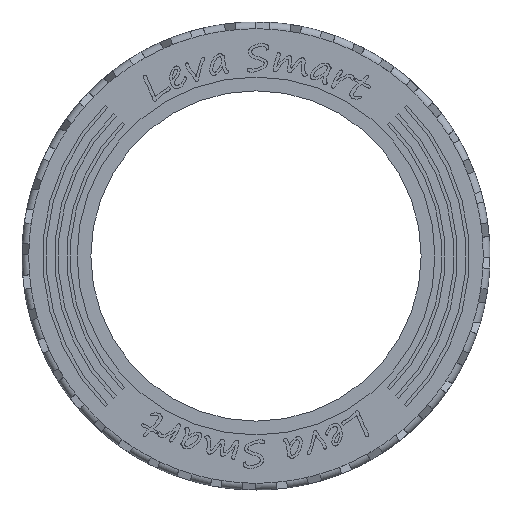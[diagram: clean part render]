
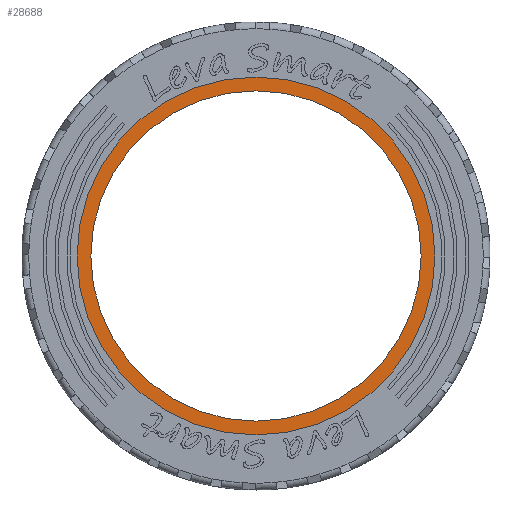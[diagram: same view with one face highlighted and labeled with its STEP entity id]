
A CAD part, left-side view. The second image highlights one B-rep face of the part: STEP entity #28688.
In plain terms, the highlighted planar face has unit normal (-1, 0, 0).
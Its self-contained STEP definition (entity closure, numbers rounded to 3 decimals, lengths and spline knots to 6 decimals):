
#8587=ORIENTED_EDGE('',*,*,#17689,.F.);
#8588=ORIENTED_EDGE('',*,*,#17690,.T.);
#17689=EDGE_CURVE('',#22177,#22177,#24249,.T.);
#17690=EDGE_CURVE('',#22178,#22178,#24250,.T.);
#22177=VERTEX_POINT('',#46409);
#22178=VERTEX_POINT('',#46412);
#24249=CIRCLE('',#30899,0.024);
#24250=CIRCLE('',#30901,0.026);
#24605=EDGE_LOOP('',(#8587));
#24606=EDGE_LOOP('',(#8588));
#26281=FACE_BOUND('',#24605,.T.);
#26282=FACE_BOUND('',#24606,.T.);
#27855=PLANE('',#30900);
#28688=ADVANCED_FACE('',(#26281,#26282),#27855,.F.);
#30899=AXIS2_PLACEMENT_3D('',#46408,#34555,#34556);
#30900=AXIS2_PLACEMENT_3D('',#46410,#34557,#34558);
#30901=AXIS2_PLACEMENT_3D('',#46411,#34559,#34560);
#34555=DIRECTION('',(-1.,0.,0.));
#34556=DIRECTION('',(0.,0.,1.));
#34557=DIRECTION('',(1.,0.,0.));
#34558=DIRECTION('',(0.,0.,-1.));
#34559=DIRECTION('',(-1.,0.,0.));
#34560=DIRECTION('',(0.,0.,1.));
#46408=CARTESIAN_POINT('',(-0.0105,0.,0.));
#46409=CARTESIAN_POINT('',(-0.0105,0.,0.024));
#46410=CARTESIAN_POINT('',(-0.0105,0.026,0.));
#46411=CARTESIAN_POINT('',(-0.0105,0.,0.));
#46412=CARTESIAN_POINT('',(-0.0105,0.,0.026));
